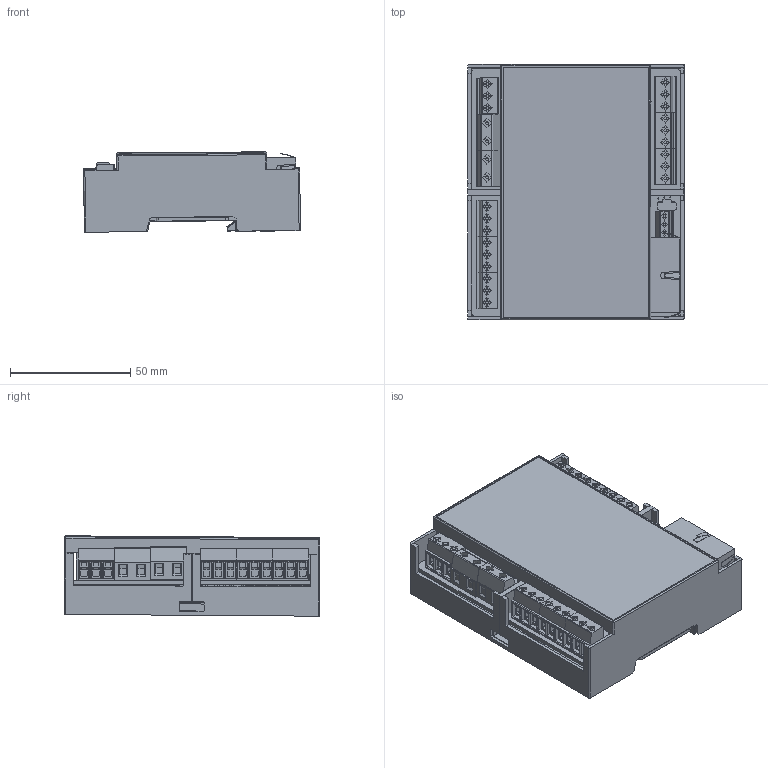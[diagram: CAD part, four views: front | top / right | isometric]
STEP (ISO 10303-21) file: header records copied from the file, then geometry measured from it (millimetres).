
FILE_DESCRIPTION(/* description */ ('Open CASCADE Model','CAx-IF Rec.Pracs.---Representation and Presentation of Product Manufacturing Information (PMI)---4.0---2014-10-13'),/* implementation_level */ '2;1');
FILE_NAME(/* name */ 'C:\Users\zambolin\Desktop\PRODOTTI\R203\C0_(ESP32)\3D\DM00202-0.stp',/* time_stamp */ '2023-04-04T09:40:06+02:00',/* author */ ('zambolin'),/* organization */ ('Open CASCADE'),/* preprocessor_version */ 'ST-DEVELOPER v18.1',/* originating_system */ 'Autodesk Inventor 2022',/* authorisation */ 'Unknown');
FILE_SCHEMA (('AP242_MANAGED_MODEL_BASED_3D_ENGINEERING_MIM_LF { 1 0 10303 442 1 1 4 }'));
Products named in the file (23): R203; Board; M1; CONN3X3MM5_RGB6711008; MORS2_P7.5_vert; EC1; J8064D628ANL_PULSE; M10; MR-V3-P3.5; M9; M8; M6; M5; M4; M7; CONN3X3MM5; J3; 1051330011; Open CASCADE STEP translator 6.8 1.174.1.1; Open CASCADE STEP translator 6.8 1.174.1.2; R-16DI-8DO DA ITALTRONIC; 6MHC33-A_XTS; BASE_6M-XT_MODIFICA
Assembly tree (28 placements, depth 4):
  R203
    Board
    M1
      MORS2_P7.5_vert  x2
      CONN3X3MM5_RGB6711008
    EC1
      J8064D628ANL_PULSE
    M10
      MR-V3-P3.5
    M9
      CONN3X3MM5
    M8
      CONN3X3MM5
    M6
      CONN3X3MM5
    M5
      CONN3X3MM5
    M4
      CONN3X3MM5
    M7
      CONN3X3MM5
    J3
      1051330011
        Open CASCADE STEP translator 6.8 1.174.1.1
        Open CASCADE STEP translator 6.8 1.174.1.2
    R-16DI-8DO DA ITALTRONIC
      6MHC33-A_XTS
      BASE_6M-XT_MODIFICA
Bounding box: 90.18 x 106.42 x 33.46 mm (x, y, z)
Volume: 80547.7 mm3; surface area: 97351.9 mm2
Topology: 15 solids, 15 shells, 3670 faces, 9657 edges, 6195 vertices
Faces by surface type: plane 2471, cylinder 946, bspline 107, torus 69, cone 44, sphere 33
Full cylindrical faces by diameter (mm): 0.3 x6, 0.305 x6, 0.33 x5, 0.457 x8, 0.609 x2, 0.635 x29, 0.889 x2, 0.9 x20, 1 x46, 1.016 x10, 1.1 x3, 1.2 x3, 1.3 x25, 1.4 x28, 2.8 x3, 2.9 x3, 3.25 x2, 3.5 x1, 3.783 x4, 4 x25
Entity records: 75618 total; most frequent: CARTESIAN_POINT 15050, ORIENTED_EDGE 12260, DIRECTION 12139, EDGE_CURVE 6130, LINE 4333, VECTOR 4333, VERTEX_POINT 3955, AXIS2_PLACEMENT_3D 3903
